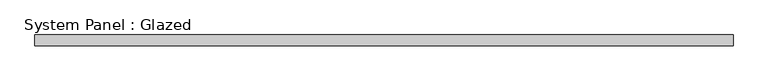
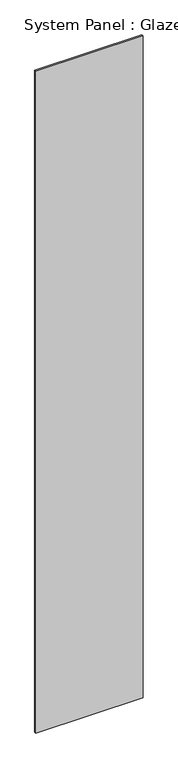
"""IFC4 building model written with IfcOpenShell, lengths in millimetres: plate geometry, System Panel : Glazed."""

from ifc_helpers import new_model, si_unit, origin, origin_with_axes, place, context, project, spatial, polyline, outline, extrude, source, transform, mapped, element, save


def system_panel_glazed_dbcdabc9(model_context):
    return source(origin(), model_context, "Body", "SweptSolid", [
        extrude(outline(polyline([(797.3502029, -12.5), (-797.3502029, -12.5), (-797.3502029, 12.5), (797.3502029, 12.5), (797.3502029, -12.5)])), origin_with_axes(), (0.0, 0.0, 1.0), 10400.0),
    ])


if __name__ == "__main__":
    model = new_model("IFC4")
    model_context = context("Model", 3, world=origin())
    ifc_project = project(units=[si_unit("LENGTHUNIT", "METRE", prefix="MILLI")], contexts=[model_context])
    site = spatial("IfcSite", under=ifc_project)
    building = spatial("IfcBuilding", under=site)
    placement = place(None, origin())
    system_panel_glazed_shape = system_panel_glazed_dbcdabc9(model_context)
    element("IfcPlate", 1, ObjectType="System Panel : Glazed", at=placement, inside=building, context=model_context, shape_type="MappedRepresentation", body=[
        mapped(system_panel_glazed_shape, transform((0.0, 0.0, 0.0), x_axis=(1.0, 0.0, 0.0), y_axis=(0.0, 1.0, 0.0), z_axis=(0.0, 0.0, 1.0))),
    ])
    save(model, "model.ifc")
